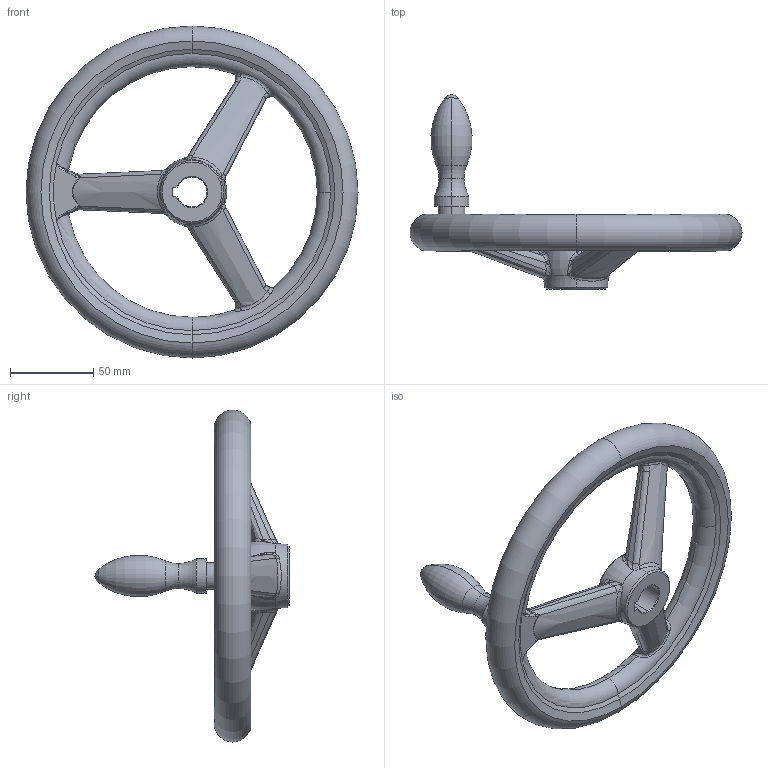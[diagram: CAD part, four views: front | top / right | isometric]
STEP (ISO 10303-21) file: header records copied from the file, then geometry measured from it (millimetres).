
FILE_DESCRIPTION (( 'STEP AP203' ), '1' );
FILE_NAME ('din950_d3_200x18.step', '2010-03-23T10:06:54', ( '_' ), ( '_' ), 'SwSTEP 2.0', 'SolidWorks 2010', '' );
FILE_SCHEMA (( 'CONFIG_CONTROL_DESIGN' ));
Length unit declared in the file: millimetre
Products named in the file (1): din950_d3_200x18
Bounding box: 200 x 117 x 200 mm (x, y, z)
Volume: 314754.1 mm3; surface area: 60492 mm2
Topology: 1 solids, 1 shells, 238 faces, 582 edges, 314 vertices
Faces by surface type: bspline 164, torus 28, cone 18, plane 14, cylinder 12, sphere 2
Entity records: 27073 total; most frequent: CARTESIAN_POINT 22570, ORIENTED_EDGE 1108, DIRECTION 612, EDGE_CURVE 554, VERTEX_POINT 314, B_SPLINE_CURVE_WITH_KNOTS 301, AXIS2_PLACEMENT_3D 288, EDGE_LOOP 242
